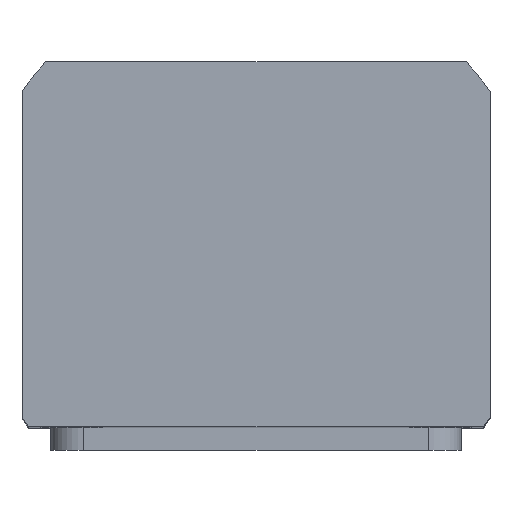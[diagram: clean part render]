
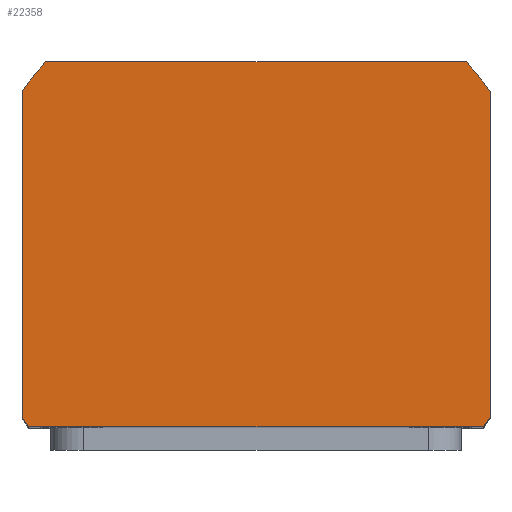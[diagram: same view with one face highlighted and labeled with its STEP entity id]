
A CAD part, top view. The second image highlights one B-rep face of the part: STEP entity #22358.
In plain terms, the highlighted planar face has unit normal (0, 0, 1) as drawn and (0, 0, -1) by its records, which use the part's own axes.
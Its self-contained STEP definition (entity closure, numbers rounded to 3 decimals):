
#274 = ORIENTED_EDGE ( 'NONE', *, *, #8505, .F. ) ;
#857 = DIRECTION ( 'NONE',  ( -1., 0., 0. ) ) ;
#958 = CARTESIAN_POINT ( 'NONE',  ( -57., -44.5, 0. ) ) ;
#997 = CARTESIAN_POINT ( 'NONE',  ( 0., 2.5, 0. ) ) ;
#1057 = ORIENTED_EDGE ( 'NONE', *, *, #10561, .F. ) ;
#1508 = CARTESIAN_POINT ( 'NONE',  ( 57., 42.265, 0. ) ) ;
#1729 = VECTOR ( 'NONE', #857, 1000. ) ;
#1757 = CARTESIAN_POINT ( 'NONE',  ( -55.374, 44.5, 0. ) ) ;
#1919 = DIRECTION ( 'NONE',  ( 0., 1., 0. ) ) ;
#2033 = CARTESIAN_POINT ( 'NONE',  ( 55.374, 44.5, 0. ) ) ;
#2366 = AXIS2_PLACEMENT_3D ( 'NONE', #21130, #10520, #22901 ) ;
#2740 = DIRECTION ( 'NONE',  ( 1., 0., 0. ) ) ;
#2779 = DIRECTION ( 'NONE',  ( 1., 0., 0. ) ) ;
#3028 = EDGE_CURVE ( 'NONE', #5554, #13285, #21427, .T. ) ;
#3060 = VECTOR ( 'NONE', #1919, 1000. ) ;
#3500 = VERTEX_POINT ( 'NONE', #1508 ) ;
#3798 = CARTESIAN_POINT ( 'NONE',  ( 57., 44.5, 0. ) ) ;
#5554 = VERTEX_POINT ( 'NONE', #19128 ) ;
#5623 = CIRCLE ( 'NONE', #7358, 69.5 ) ;
#5864 = ORIENTED_EDGE ( 'NONE', *, *, #3028, .F. ) ;
#6425 = EDGE_CURVE ( 'NONE', #10644, #14337, #5623, .T. ) ;
#6822 = CIRCLE ( 'NONE', #6839, 69.5 ) ;
#6839 = AXIS2_PLACEMENT_3D ( 'NONE', #997, #13386, #2779 ) ;
#6946 = EDGE_CURVE ( 'NONE', #10007, #10644, #10613, .T. ) ;
#7358 = AXIS2_PLACEMENT_3D ( 'NONE', #19846, #9233, #21621 ) ;
#7638 = CARTESIAN_POINT ( 'NONE',  ( 0., 0., 0. ) ) ;
#8505 = EDGE_CURVE ( 'NONE', #19841, #5554, #12768, .T. ) ;
#8839 = LINE ( 'NONE', #13065, #22419 ) ;
#9021 = ORIENTED_EDGE ( 'NONE', *, *, #10872, .F. ) ;
#9200 = CARTESIAN_POINT ( 'NONE',  ( 51.198, -44.5, 0. ) ) ;
#9233 = DIRECTION ( 'NONE',  ( 0., 0., 1. ) ) ;
#9411 = DIRECTION ( 'NONE',  ( 1., 0., 0. ) ) ;
#9685 = CARTESIAN_POINT ( 'NONE',  ( -57., 44.5, 0. ) ) ;
#9772 = CARTESIAN_POINT ( 'NONE',  ( 0., 2.5, 0. ) ) ;
#9809 = CARTESIAN_POINT ( 'NONE',  ( -57., 42.265, 0. ) ) ;
#10007 = VERTEX_POINT ( 'NONE', #2033 ) ;
#10051 = CARTESIAN_POINT ( 'NONE',  ( 57., -37.265, 0. ) ) ;
#10520 = DIRECTION ( 'NONE',  ( 0., 0., 1. ) ) ;
#10561 = EDGE_CURVE ( 'NONE', #13285, #13626, #18855, .T. ) ;
#10613 = LINE ( 'NONE', #9685, #1729 ) ;
#10644 = VERTEX_POINT ( 'NONE', #1757 ) ;
#10872 = EDGE_CURVE ( 'NONE', #13626, #3500, #13037, .T. ) ;
#11547 = DIRECTION ( 'NONE',  ( 1., 0., 0. ) ) ;
#12768 = CIRCLE ( 'NONE', #19087, 69.5 ) ;
#13037 = LINE ( 'NONE', #3798, #3060 ) ;
#13065 = CARTESIAN_POINT ( 'NONE',  ( -57., 44.5, 0. ) ) ;
#13285 = VERTEX_POINT ( 'NONE', #9200 ) ;
#13386 = DIRECTION ( 'NONE',  ( 0., 0., 1. ) ) ;
#13460 = ORIENTED_EDGE ( 'NONE', *, *, #20037, .F. ) ;
#13626 = VERTEX_POINT ( 'NONE', #10051 ) ;
#14089 = ORIENTED_EDGE ( 'NONE', *, *, #14285, .F. ) ;
#14285 = EDGE_CURVE ( 'NONE', #14337, #19841, #8839, .T. ) ;
#14337 = VERTEX_POINT ( 'NONE', #9809 ) ;
#15035 = AXIS2_PLACEMENT_3D ( 'NONE', #7638, #20028, #9411 ) ;
#16141 = VECTOR ( 'NONE', #2740, 1000. ) ;
#16182 = FACE_OUTER_BOUND ( 'NONE', #19126, .T. ) ;
#16447 = PLANE ( 'NONE',  #15035 ) ;
#18855 = CIRCLE ( 'NONE', #2366, 69.5 ) ;
#19087 = AXIS2_PLACEMENT_3D ( 'NONE', #9772, #22156, #11547 ) ;
#19126 = EDGE_LOOP ( 'NONE', ( #13460, #9021, #1057, #5864, #274, #14089, #19170, #22453 ) ) ;
#19128 = CARTESIAN_POINT ( 'NONE',  ( -51.198, -44.5, 0. ) ) ;
#19170 = ORIENTED_EDGE ( 'NONE', *, *, #6425, .F. ) ;
#19841 = VERTEX_POINT ( 'NONE', #21671 ) ;
#19846 = CARTESIAN_POINT ( 'NONE',  ( 0., 2.5, 0. ) ) ;
#20028 = DIRECTION ( 'NONE',  ( 0., 0., 1. ) ) ;
#20037 = EDGE_CURVE ( 'NONE', #3500, #10007, #6822, .T. ) ;
#20418 = DIRECTION ( 'NONE',  ( 0., -1., 0. ) ) ;
#21130 = CARTESIAN_POINT ( 'NONE',  ( 0., 2.5, 0. ) ) ;
#21427 = LINE ( 'NONE', #958, #16141 ) ;
#21621 = DIRECTION ( 'NONE',  ( 1., 0., 0. ) ) ;
#21671 = CARTESIAN_POINT ( 'NONE',  ( -57., -37.265, 0. ) ) ;
#22156 = DIRECTION ( 'NONE',  ( 0., 0., 1. ) ) ;
#22358 = ADVANCED_FACE ( 'NONE', ( #16182 ), #16447, .F. ) ;
#22419 = VECTOR ( 'NONE', #20418, 1000. ) ;
#22453 = ORIENTED_EDGE ( 'NONE', *, *, #6946, .F. ) ;
#22901 = DIRECTION ( 'NONE',  ( 1., 0., 0. ) ) ;
